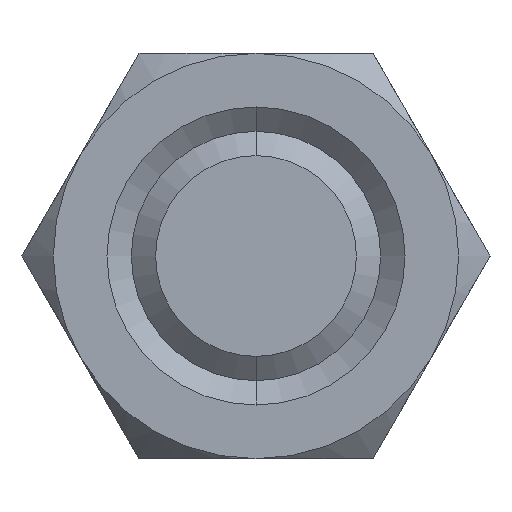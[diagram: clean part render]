
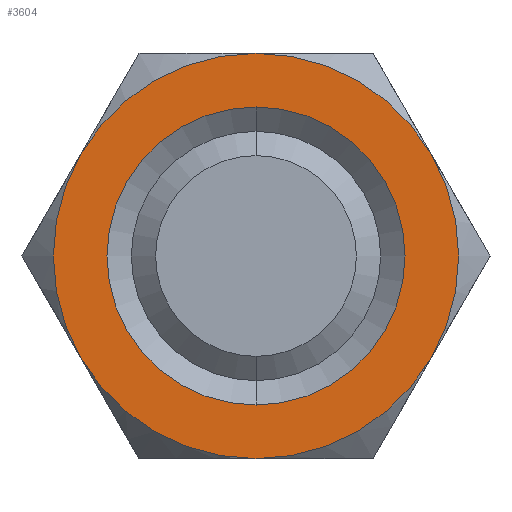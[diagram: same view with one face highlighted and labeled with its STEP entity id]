
A CAD part, front view. The second image highlights one B-rep face of the part: STEP entity #3604.
In plain terms, the highlighted planar face has unit normal (0, -1, 0).
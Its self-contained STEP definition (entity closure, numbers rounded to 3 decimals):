
#2622 = VERTEX_POINT ( 'NONE', #6937 ) ;
#2625 = EDGE_CURVE ( 'NONE', #2644, #2622, #6936, .T. ) ;
#2644 = VERTEX_POINT ( 'NONE', #6953 ) ;
#2714 = EDGE_CURVE ( 'NONE', #2718, #2715, #7114, .T. ) ;
#2715 = VERTEX_POINT ( 'NONE', #7106 ) ;
#2716 = EDGE_LOOP ( 'NONE', ( #2717, #3495, #3613, #3628, #3608, #3474 ) ) ;
#2717 = ORIENTED_EDGE ( 'NONE', *, *, #2714, .F. ) ;
#2718 = VERTEX_POINT ( 'NONE', #7105 ) ;
#3465 = EDGE_LOOP ( 'NONE', ( #3508, #3488 ) ) ;
#3469 = EDGE_CURVE ( 'NONE', #2715, #3607, #8594, .T. ) ;
#3474 = ORIENTED_EDGE ( 'NONE', *, *, #3469, .F. ) ;
#3488 = ORIENTED_EDGE ( 'NONE', *, *, #2625, .F. ) ;
#3495 = ORIENTED_EDGE ( 'NONE', *, *, #3510, .F. ) ;
#3507 = EDGE_CURVE ( 'NONE', #2622, #2644, #8694, .T. ) ;
#3508 = ORIENTED_EDGE ( 'NONE', *, *, #3507, .F. ) ;
#3510 = EDGE_CURVE ( 'NONE', #3512, #2718, #8684, .T. ) ;
#3512 = VERTEX_POINT ( 'NONE', #8740 ) ;
#3604 = ADVANCED_FACE ( 'NONE', ( #8872, #8871 ), #8870, .F. ) ;
#3605 = EDGE_CURVE ( 'NONE', #3610, #3627, #8928, .T. ) ;
#3606 = EDGE_CURVE ( 'NONE', #3610, #3607, #8923, .T. ) ;
#3607 = VERTEX_POINT ( 'NONE', #8919 ) ;
#3608 = ORIENTED_EDGE ( 'NONE', *, *, #3606, .T. ) ;
#3610 = VERTEX_POINT ( 'NONE', #8918 ) ;
#3613 = ORIENTED_EDGE ( 'NONE', *, *, #3625, .F. ) ;
#3625 = EDGE_CURVE ( 'NONE', #3627, #3512, #8953, .T. ) ;
#3627 = VERTEX_POINT ( 'NONE', #8954 ) ;
#3628 = ORIENTED_EDGE ( 'NONE', *, *, #3605, .F. ) ;
#6932 = DIRECTION ( 'NONE',  ( 0., 0., -1. ) ) ;
#6933 = DIRECTION ( 'NONE',  ( 0., -1., 0. ) ) ;
#6934 = CARTESIAN_POINT ( 'NONE',  ( 0., 0., 0. ) ) ;
#6935 = AXIS2_PLACEMENT_3D ( 'NONE', #6934, #6933, #6932 ) ;
#6936 = CIRCLE ( 'NONE', #6935, 4.781 ) ;
#6937 = CARTESIAN_POINT ( 'NONE',  ( 0., 0., -4.781 ) ) ;
#6953 = CARTESIAN_POINT ( 'NONE',  ( 0., 0., 4.781 ) ) ;
#7105 = CARTESIAN_POINT ( 'NONE',  ( 0., 0., 6.5 ) ) ;
#7106 = CARTESIAN_POINT ( 'NONE',  ( 5.629, 0., 3.25 ) ) ;
#7107 = DIRECTION ( 'NONE',  ( 0., 0., 1. ) ) ;
#7108 = DIRECTION ( 'NONE',  ( 0., 1., 0. ) ) ;
#7109 = CARTESIAN_POINT ( 'NONE',  ( 0., 0., 0. ) ) ;
#7110 = AXIS2_PLACEMENT_3D ( 'NONE', #7109, #7108, #7107 ) ;
#7114 = CIRCLE ( 'NONE', #7110, 6.5 ) ;
#8592 = CARTESIAN_POINT ( 'NONE',  ( 0., 0., 0. ) ) ;
#8593 = AXIS2_PLACEMENT_3D ( 'NONE', #8592, #8654, #8653 ) ;
#8594 = CIRCLE ( 'NONE', #8593, 6.5 ) ;
#8653 = DIRECTION ( 'NONE',  ( 0., 0., 1. ) ) ;
#8654 = DIRECTION ( 'NONE',  ( 0., 1., 0. ) ) ;
#8680 = DIRECTION ( 'NONE',  ( 0., 0., 1. ) ) ;
#8681 = DIRECTION ( 'NONE',  ( 0., 1., 0. ) ) ;
#8682 = CARTESIAN_POINT ( 'NONE',  ( 0., 0., 0. ) ) ;
#8683 = AXIS2_PLACEMENT_3D ( 'NONE', #8682, #8681, #8680 ) ;
#8684 = CIRCLE ( 'NONE', #8683, 6.5 ) ;
#8690 = DIRECTION ( 'NONE',  ( 0., 0., -1. ) ) ;
#8691 = DIRECTION ( 'NONE',  ( 0., -1., 0. ) ) ;
#8692 = CARTESIAN_POINT ( 'NONE',  ( 0., 0., 0. ) ) ;
#8693 = AXIS2_PLACEMENT_3D ( 'NONE', #8692, #8691, #8690 ) ;
#8694 = CIRCLE ( 'NONE', #8693, 4.781 ) ;
#8740 = CARTESIAN_POINT ( 'NONE',  ( -5.629, 0., 3.25 ) ) ;
#8866 = DIRECTION ( 'NONE',  ( 0., 0., 1. ) ) ;
#8867 = DIRECTION ( 'NONE',  ( 0., 1., 0. ) ) ;
#8868 = CARTESIAN_POINT ( 'NONE',  ( 7.506, 0., 0. ) ) ;
#8869 = AXIS2_PLACEMENT_3D ( 'NONE', #8868, #8867, #8866 ) ;
#8870 = PLANE ( 'NONE',  #8869 ) ;
#8871 = FACE_BOUND ( 'NONE', #3465, .T. ) ;
#8872 = FACE_OUTER_BOUND ( 'NONE', #2716, .T. ) ;
#8918 = CARTESIAN_POINT ( 'NONE',  ( 0., 0., -6.5 ) ) ;
#8919 = CARTESIAN_POINT ( 'NONE',  ( 5.629, 0., -3.25 ) ) ;
#8920 = DIRECTION ( 'NONE',  ( 0., 0., -1. ) ) ;
#8921 = DIRECTION ( 'NONE',  ( 0., -1., 0. ) ) ;
#8922 = AXIS2_PLACEMENT_3D ( 'NONE', #8929, #8921, #8920 ) ;
#8923 = CIRCLE ( 'NONE', #8922, 6.5 ) ;
#8924 = DIRECTION ( 'NONE',  ( 0., 0., 1. ) ) ;
#8925 = DIRECTION ( 'NONE',  ( 0., 1., 0. ) ) ;
#8926 = CARTESIAN_POINT ( 'NONE',  ( 0., 0., 0. ) ) ;
#8927 = AXIS2_PLACEMENT_3D ( 'NONE', #8926, #8925, #8924 ) ;
#8928 = CIRCLE ( 'NONE', #8927, 6.5 ) ;
#8929 = CARTESIAN_POINT ( 'NONE',  ( 0., 0., 0. ) ) ;
#8949 = DIRECTION ( 'NONE',  ( 0., 0., 1. ) ) ;
#8950 = DIRECTION ( 'NONE',  ( 0., 1., 0. ) ) ;
#8951 = CARTESIAN_POINT ( 'NONE',  ( 0., 0., 0. ) ) ;
#8952 = AXIS2_PLACEMENT_3D ( 'NONE', #8951, #8950, #8949 ) ;
#8953 = CIRCLE ( 'NONE', #8952, 6.5 ) ;
#8954 = CARTESIAN_POINT ( 'NONE',  ( -5.629, 0., -3.25 ) ) ;
